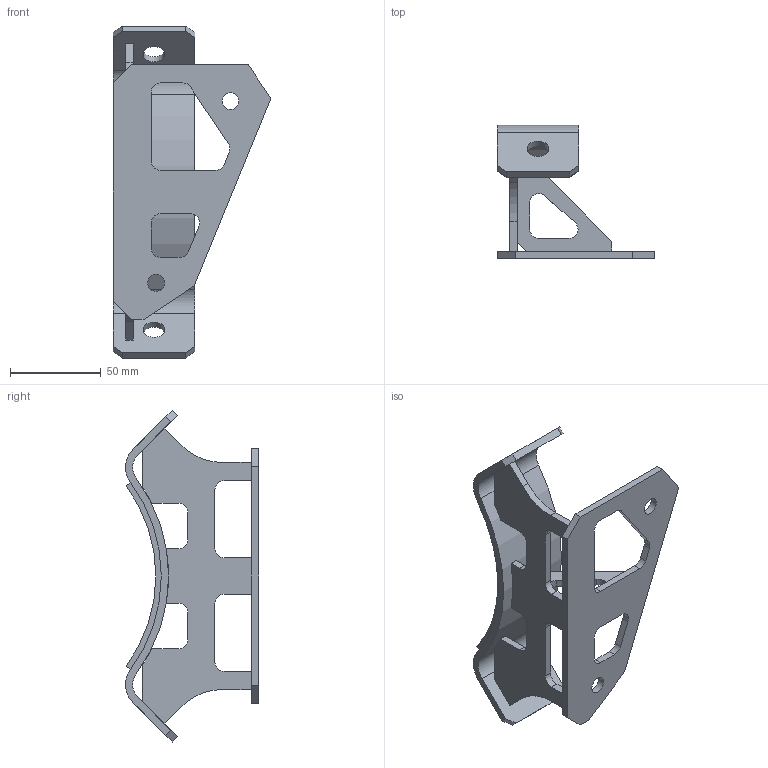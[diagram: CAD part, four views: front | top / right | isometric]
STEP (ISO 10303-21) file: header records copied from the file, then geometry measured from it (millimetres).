
FILE_DESCRIPTION(/* description */ ('SUPPORT 1','CAx-IF Rec.Pracs.---Representation and Presentation of Product Manufacturing Information (PMI)---4.0---2014-10-13'),/* implementation_level */ '2;1');
FILE_NAME(/* name */ 'vv330201-C.stp',/* time_stamp */ '2025-09-24T13:45:52+02:00',/* author */ ('PUIGSERVER B.'),/* organization */ (''),/* preprocessor_version */ 'ST-DEVELOPER v20',/* originating_system */ 'Autodesk Inventor 2025',/* authorisation */ '');
FILE_SCHEMA (('AP242_MANAGED_MODEL_BASED_3D_ENGINEERING_MIM_LF { 1 0 10303 442 1 1 4 }'));
Length unit declared in the file: millimetre
Products named in the file (1): VICTOR.V.33.02.01
Bounding box: 86.8 x 73.21 x 182.63 mm (x, y, z)
Volume: 98594.6 mm3; surface area: 60536.4 mm2
Topology: 5 solids, 5 shells, 109 faces, 297 edges, 198 vertices
Faces by surface type: plane 72, cylinder 37
Full cylindrical faces by diameter (mm): 9.3 x2, 12 x2
Entity records: 4586 total; most frequent: CARTESIAN_POINT 999, DIRECTION 713, ORIENTED_EDGE 594, EDGE_CURVE 297, AXIS2_PLACEMENT_3D 245, LINE 223, VECTOR 223, VERTEX_POINT 198
